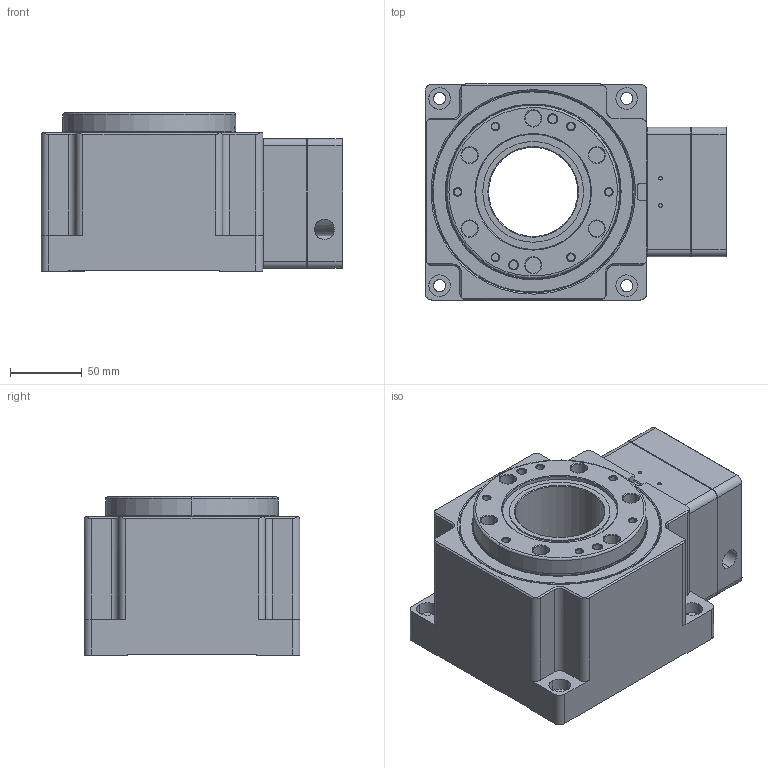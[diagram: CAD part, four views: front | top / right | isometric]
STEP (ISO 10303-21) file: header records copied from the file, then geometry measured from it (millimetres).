
FILE_DESCRIPTION (( 'STEP AP214' ), '1' );
FILE_NAME ('RT150-10-N 19-70-90-M6.STEP', '2025-06-25T03:41:50', ( '微软用户' ), ( '微软中国' ), 'SwSTEP 2.0', 'SolidWorks 2024', '' );
FILE_SCHEMA (( 'AUTOMOTIVE_DESIGN' ));
Length unit declared in the file: millimetre
Products named in the file (1): RT150-10-N 19-70-90-M6
Bounding box: 209.5 x 150 x 110 mm (x, y, z)
Surface area: 207254.5 mm2 (no closed solid volume)
Topology: 0 solids, 34 shells, 668 faces, 1886 edges, 1220 vertices
Faces by surface type: cylinder 241, plane 211, cone 175, bspline 41
Entity records: 30115 total; most frequent: CARTESIAN_POINT 13700, ORIENTED_EDGE 3272, DIRECTION 3258, EDGE_CURVE 1850, VERTEX_POINT 1220, AXIS2_PLACEMENT_3D 1181, VECTOR 896, LINE 896
